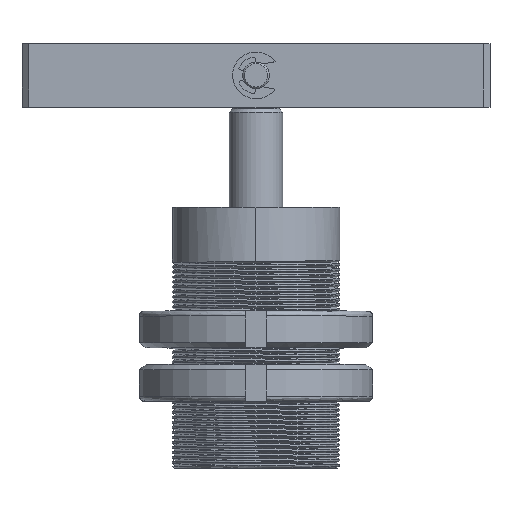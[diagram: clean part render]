
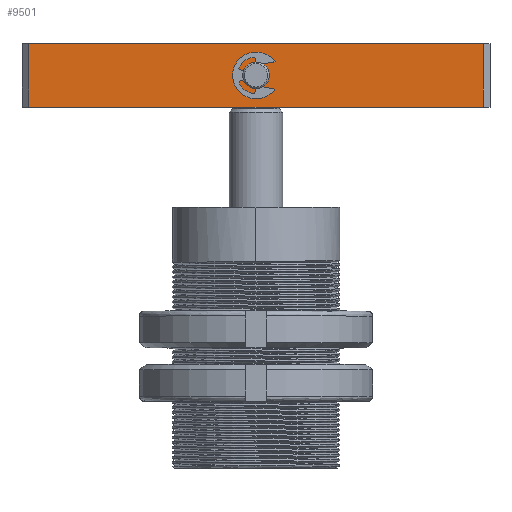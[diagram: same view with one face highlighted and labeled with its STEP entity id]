
A CAD part, top view. The second image highlights one B-rep face of the part: STEP entity #9501.
In plain terms, the highlighted planar face has unit normal (0, 0, 1) as drawn and (0, -1, 0) by its records, which use the part's own axes.
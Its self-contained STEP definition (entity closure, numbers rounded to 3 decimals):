
#8522 = VERTEX_POINT ( 'NONE', #13489 ) ;
#8523 = VERTEX_POINT ( 'NONE', #13490 ) ;
#8537 = VERTEX_POINT ( 'NONE', #13504 ) ;
#8538 = VERTEX_POINT ( 'NONE', #13505 ) ;
#8550 = VERTEX_POINT ( 'NONE', #13517 ) ;
#8551 = VERTEX_POINT ( 'NONE', #13518 ) ;
#9501 = ADVANCED_FACE ( 'NONE', ( #29827, #29816 ), #29397, .F. ) ;
#9558 = EDGE_CURVE ( 'NONE', #8522, #8523, #12823, .T. ) ;
#9572 = EDGE_CURVE ( 'NONE', #8537, #8538, #30426, .T. ) ;
#9586 = EDGE_CURVE ( 'NONE', #8551, #8550, #30468, .T. ) ;
#9596 = EDGE_CURVE ( 'NONE', #8537, #8551, #30498, .T. ) ;
#10070 = EDGE_LOOP ( 'NONE', ( #10377, #10379 ) ) ;
#10071 = EDGE_LOOP ( 'NONE', ( #10375, #10380, #10378, #10382 ) ) ;
#10375 = ORIENTED_EDGE ( 'NONE', *, *, #9586, .T. ) ;
#10377 = ORIENTED_EDGE ( 'NONE', *, *, #10778, .T. ) ;
#10378 = ORIENTED_EDGE ( 'NONE', *, *, #9572, .F. ) ;
#10379 = ORIENTED_EDGE ( 'NONE', *, *, #9558, .T. ) ;
#10380 = ORIENTED_EDGE ( 'NONE', *, *, #10779, .F. ) ;
#10382 = ORIENTED_EDGE ( 'NONE', *, *, #9596, .T. ) ;
#10778 = EDGE_CURVE ( 'NONE', #8523, #8522, #12835, .T. ) ;
#10779 = EDGE_CURVE ( 'NONE', #8538, #8550, #30569, .T. ) ;
#12823 = CIRCLE ( 'NONE', #29867, 4. ) ;
#12835 = CIRCLE ( 'NONE', #29908, 4. ) ;
#13489 = CARTESIAN_POINT ( 'NONE',  ( 13462.757, 2336.591, 5.5 ) ) ;
#13490 = CARTESIAN_POINT ( 'NONE',  ( 13462.757, 2336.591, 13.5 ) ) ;
#13504 = CARTESIAN_POINT ( 'NONE',  ( 13394.757, 2336.591, 19. ) ) ;
#13505 = CARTESIAN_POINT ( 'NONE',  ( 13530.757, 2336.591, 19. ) ) ;
#13517 = CARTESIAN_POINT ( 'NONE',  ( 13530.757, 2336.591, 0. ) ) ;
#13518 = CARTESIAN_POINT ( 'NONE',  ( 13394.757, 2336.591, 0. ) ) ;
#29397 = PLANE ( 'NONE',  #29829 ) ;
#29398 = CARTESIAN_POINT ( 'NONE',  ( 13394.757, 2336.591, 19. ) ) ;
#29399 = DIRECTION ( 'NONE',  ( 0., 1., 0. ) ) ;
#29400 = DIRECTION ( 'NONE',  ( 0., 0., 1. ) ) ;
#29816 = FACE_OUTER_BOUND ( 'NONE', #10071, .T. ) ;
#29827 = FACE_BOUND ( 'NONE', #10070, .T. ) ;
#29829 = AXIS2_PLACEMENT_3D ( 'NONE', #29398, #29399, #29400 ) ;
#29867 = AXIS2_PLACEMENT_3D ( 'NONE', #30380, #30384, #30385 ) ;
#29882 = VECTOR ( 'NONE', #30428, 1000. ) ;
#29897 = VECTOR ( 'NONE', #30470, 1000. ) ;
#29908 = AXIS2_PLACEMENT_3D ( 'NONE', #30565, #30566, #30567 ) ;
#29909 = VECTOR ( 'NONE', #30500, 1000. ) ;
#29910 = VECTOR ( 'NONE', #30571, 1000. ) ;
#30380 = CARTESIAN_POINT ( 'NONE',  ( 13462.757, 2336.591, 9.5 ) ) ;
#30384 = DIRECTION ( 'NONE',  ( 0., 1., 0. ) ) ;
#30385 = DIRECTION ( 'NONE',  ( 0., 0., 1. ) ) ;
#30426 = LINE ( 'NONE', #30427, #29882 ) ;
#30427 = CARTESIAN_POINT ( 'NONE',  ( 13394.757, 2336.591, 19. ) ) ;
#30428 = DIRECTION ( 'NONE',  ( 1., 0., 0. ) ) ;
#30468 = LINE ( 'NONE', #30469, #29897 ) ;
#30469 = CARTESIAN_POINT ( 'NONE',  ( 13394.757, 2336.591, 0. ) ) ;
#30470 = DIRECTION ( 'NONE',  ( 1., 0., 0. ) ) ;
#30498 = LINE ( 'NONE', #30499, #29909 ) ;
#30499 = CARTESIAN_POINT ( 'NONE',  ( 13394.757, 2336.591, 19. ) ) ;
#30500 = DIRECTION ( 'NONE',  ( 0., 0., -1. ) ) ;
#30565 = CARTESIAN_POINT ( 'NONE',  ( 13462.757, 2336.591, 9.5 ) ) ;
#30566 = DIRECTION ( 'NONE',  ( 0., 1., 0. ) ) ;
#30567 = DIRECTION ( 'NONE',  ( 0., 0., 1. ) ) ;
#30569 = LINE ( 'NONE', #30570, #29910 ) ;
#30570 = CARTESIAN_POINT ( 'NONE',  ( 13530.757, 2336.591, 19. ) ) ;
#30571 = DIRECTION ( 'NONE',  ( 0., 0., -1. ) ) ;
